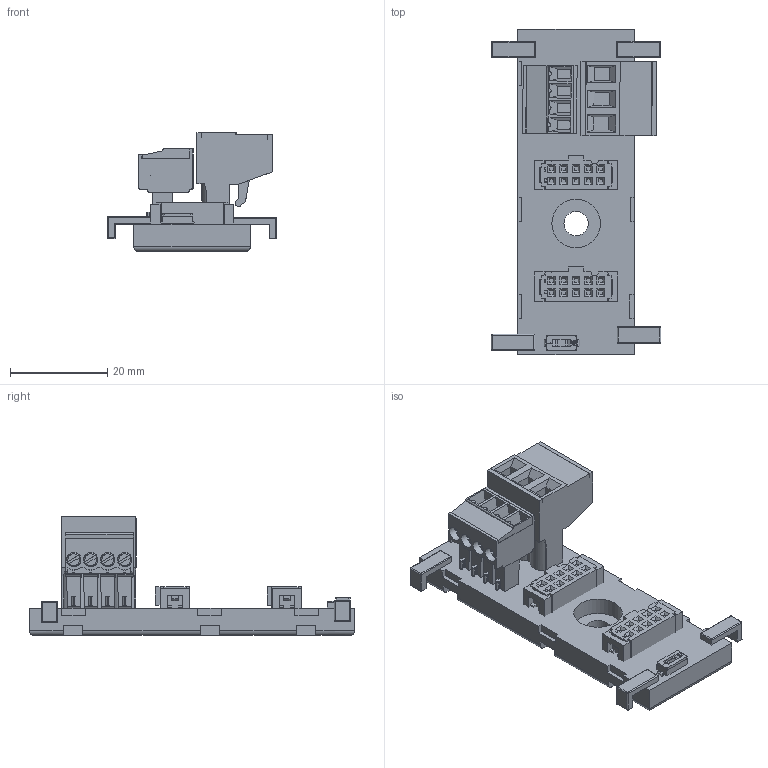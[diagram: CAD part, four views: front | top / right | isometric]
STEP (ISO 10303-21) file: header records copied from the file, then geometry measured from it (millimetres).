
FILE_DESCRIPTION(/* description */ ('FreeCAD Model'),/* implementation_level */ '2;1');
FILE_NAME(/* name */ 'C:\Users\Zambolin\Desktop\PRODOTTI\GUIDA DIN\DM00184-1.stp',/* time_stamp */ '2021-04-12T10:29:15+02:00',/* author */ ('zambolin'),/* organization */ (''),/* preprocessor_version */ 'ST-DEVELOPER v18',/* originating_system */ 'Autodesk Inventor 2020',/* authorisation */ 'Unknown');
FILE_SCHEMA (('AUTOMOTIVE_DESIGN { 1 0 10303 214 3 1 1 }'));
Length unit declared in the file: millimetre
Products named in the file (13): DM00184-1; 10514001; 10514; BASE-DINAL; Fillet003; #43187; #43188; Fillet002; #43190; 43613_01; 43613_02; SH03-5,08; SH04-3,5
Assembly tree (12 placements, depth 2):
  DM00184-1
    10514001
    10514
    BASE-DINAL
    Fillet003
    #43187
    #43188
    Fillet002
    #43190
    43613_01
    43613_02
    SH03-5,08
    SH04-3,5
Bounding box: 34.94 x 67 x 24.45 mm (x, y, z)
Volume: 14504.3 mm3; surface area: 10796.3 mm2
Topology: 12 solids, 12 shells, 1363 faces, 3679 edges, 2359 vertices
Faces by surface type: plane 1139, cylinder 162, sphere 23, cone 15, bspline 12, torus 12
Full cylindrical faces by diameter (mm): 1.2 x4, 1.6 x3, 2.8 x4, 3 x4, 3.8 x3, 4 x3, 5 x1, 10 x1
Entity records: 43368 total; most frequent: CARTESIAN_POINT 7972, ORIENTED_EDGE 7312, DIRECTION 6782, EDGE_CURVE 3656, LINE 3194, VECTOR 3194, VERTEX_POINT 2359, AXIS2_PLACEMENT_3D 1794
